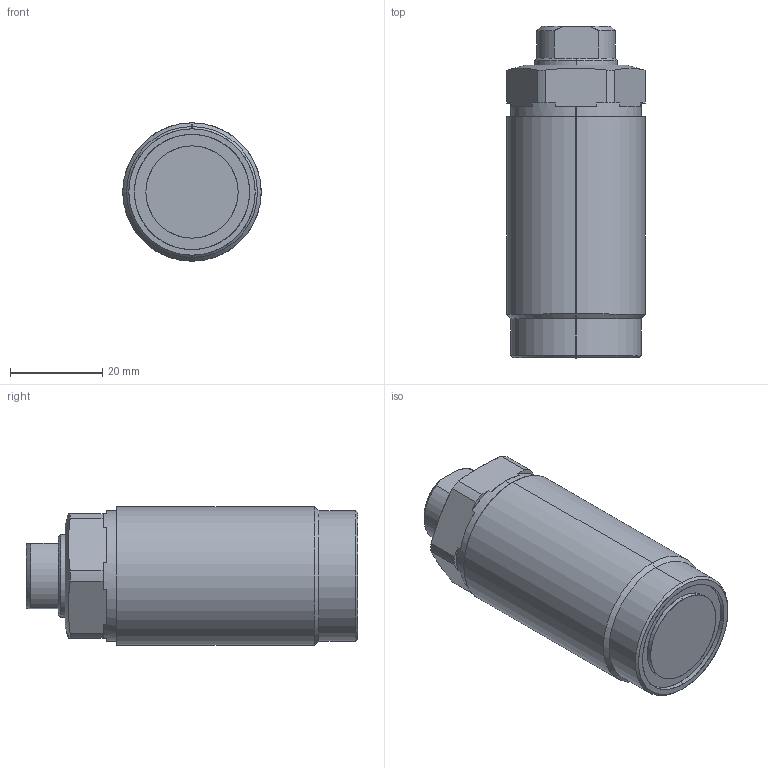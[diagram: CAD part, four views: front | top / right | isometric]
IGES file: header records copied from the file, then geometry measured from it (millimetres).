
Start section: SolidWorks IGES file using analytic representation for surfaces
Global section: file name: D:\karuppas\Clasp\3D model\Thread body cylinder\T03C-M303-L threaded pusher\T03C-M303-L threaded pusher.IGS; native system: SolidWorks 2017; preprocessor: SolidWorks 2017; author: pc; date: 220709.230828; units: millimetre
Bounding box: 30 x 72 x 30 mm (x, y, z)
Surface area: 10581.1 mm2 (no closed solid volume)
Topology: 0 solids, 0 shells, 257 faces, 3185 edges, 3183 vertices
Faces by surface type: bspline 221, revolution 36
